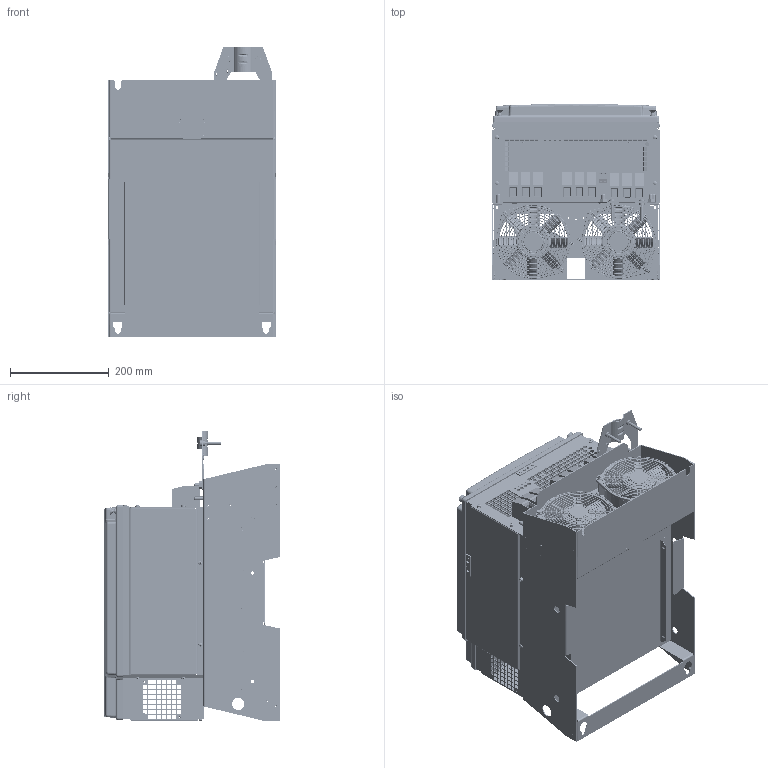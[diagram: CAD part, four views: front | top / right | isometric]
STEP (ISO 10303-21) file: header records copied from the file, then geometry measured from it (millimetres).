
FILE_DESCRIPTION (( 'STEP AP203' ), '1' );
FILE_NAME ('R0F5T00-0000 KEB-COMBIVERT.STEP', '2009-09-10T10:23:56', ( 'KEB' ), ( 'Karl E. Brinkmann GmbH' ), 'SwSTEP 2.0', 'SolidWorks 2007', '' );
FILE_SCHEMA (( 'CONFIG_CONTROL_DESIGN' ));
Products named in the file (1): R0F5T00-0000 KEB-COMBIVERT
Bounding box: 340 x 357 x 588 mm (x, y, z)
Volume: 6324656.3 mm3; surface area: 5501294.9 mm2
Topology: 154 solids, 154 shells, 10992 faces, 28622 edges, 18144 vertices
Faces by surface type: plane 5967, cylinder 2912, cone 1019, bspline 538, torus 500, sphere 56
Entity records: 368626 total; most frequent: CARTESIAN_POINT 95548, ORIENTED_EDGE 56948, DIRECTION 55864, EDGE_CURVE 28474, AXIS2_PLACEMENT_3D 18870, VERTEX_POINT 18144, VECTOR 18124, LINE 18124
